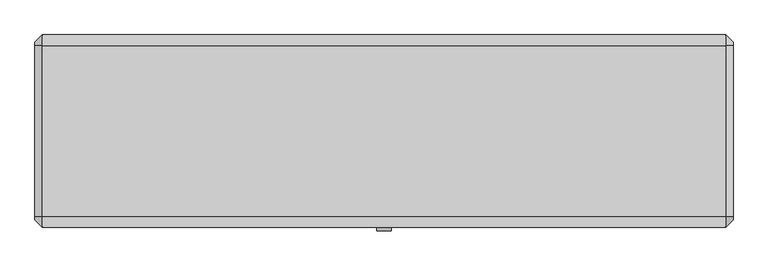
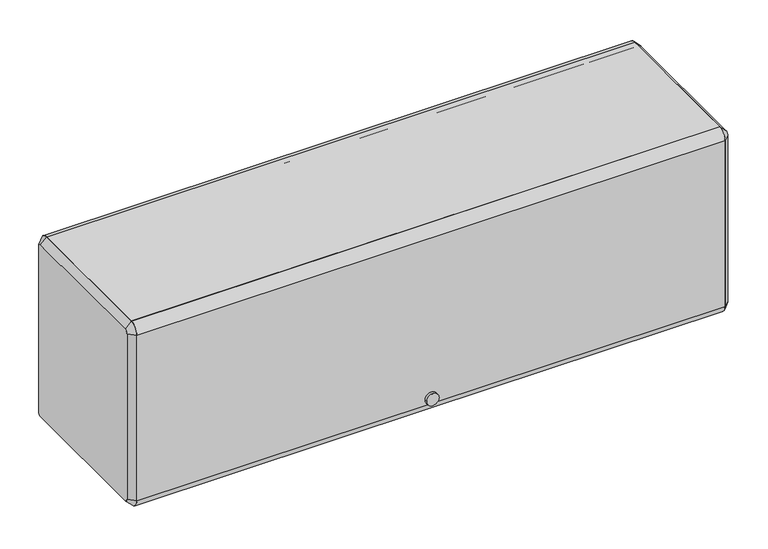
"""IFC4 building model written with IfcOpenShell, lengths in millimetres: furniture geometry."""

from ifc_helpers import new_model, si_unit, point, frame, frame_2d, origin, place, context, project, spatial, polyline, circle_curve, trimmed, segment, composite_curve, outline, extrude, source, transform, mapped, element, save
from ifc_brep_helpers import plane_surface, revolved_surface, advanced_brep


def furniture_8348d9a5(model_context):
    return source(origin(), model_context, "Body", "SolidModel", [
        extrude(outline(composite_curve([segment(polyline([(-136.525, 2177.2626), (-136.525, 2189.9626), (161.925, 2189.9626)]), True, "CONTINUOUS"), segment(trimmed(circle_curve(frame_2d((161.925, 2170.9126)), 19.05), [point((161.925, 2189.9626))], [point((180.975, 2170.9126))], False, "CARTESIAN"), True, "CONTINUOUS"), segment(polyline([(180.975, 2170.9126), (168.275, 2170.9126)]), True, "CONTINUOUS"), segment(trimmed(circle_curve(frame_2d((161.925, 2170.9126)), 6.35), [point((168.275, 2170.9126))], [point((161.925, 2177.2626))], True, "CARTESIAN"), True, "CONTINUOUS"), segment(polyline([(161.925, 2177.2626), (-136.525, 2177.2626)]), True, "CONTINUOUS")], self_intersect=False)), frame((-596.9, 0.0, 0.0), z_axis=(1.0, 0.0, 0.0), x_axis=(0.0, 1.0, 0.0)), (0.0, 0.0, 1.0), 1193.8),
        extrude(outline(composite_curve([segment(trimmed(circle_curve(frame_2d((-136.525, 2170.9126)), 19.05), [point((-155.575, 2170.9126))], [point((-136.525, 2189.9626))], False, "CARTESIAN"), True, "CONTINUOUS"), segment(polyline([(-136.525, 2189.9626), (-136.525, 2177.2626)]), True, "CONTINUOUS"), segment(trimmed(circle_curve(frame_2d((-136.525, 2170.9126)), 6.35), [point((-136.525, 2177.2626))], [point((-142.875, 2170.9126))], True, "CARTESIAN"), True, "CONTINUOUS"), segment(polyline([(-142.875, 2170.9126), (-142.875, 1815.3126)]), True, "CONTINUOUS"), segment(trimmed(circle_curve(frame_2d((-136.525, 1815.3126)), 6.35), [point((-142.875, 1815.3126))], [point((-136.525, 1808.9626))], True, "CARTESIAN"), True, "CONTINUOUS"), segment(polyline([(-136.525, 1808.9626), (-136.525, 1796.2626)]), True, "CONTINUOUS"), segment(trimmed(circle_curve(frame_2d((-136.525, 1815.3126)), 19.05), [point((-136.525, 1796.2626))], [point((-155.575, 1815.3126))], False, "CARTESIAN"), True, "CONTINUOUS"), segment(polyline([(-155.575, 1815.3126), (-155.575, 2170.9126)]), True, "CONTINUOUS")], self_intersect=False)), frame((-596.9, 0.0, 0.0), z_axis=(1.0, 0.0, 0.0), x_axis=(0.0, 1.0, 0.0)), (0.0, 0.0, 1.0), 1193.8),
        extrude(outline(composite_curve([segment(trimmed(circle_curve(frame_2d((1827.9744906, 0.0201199)), 12.7253951), [point((1827.9744906, 12.745515))], [point((1827.9744906, -12.7052752))], False, "CARTESIAN"), True, "CONTINUOUS"), segment(trimmed(circle_curve(frame_2d((1827.9744906, 0.0201199)), 12.7253951), [point((1827.9744906, -12.7052752))], [point((1827.9744906, 12.745515))], False, "CARTESIAN"), True, "CONTINUOUS")], self_intersect=False)), frame((0.0, -161.925, 0.0), z_axis=(0.0, 1.0, 0.0), x_axis=(0.0, 0.0, 1.0)), (0.0, 0.0, 1.0), 6.35),
        extrude(outline(polyline([(-136.525, 1834.3626), (161.925, 1834.3626), (161.925, 1872.4626), (174.625, 1872.4626), (174.625, 1869.2876), (165.1, 1869.2876), (165.1, 1831.1876), (-133.35, 1831.1876), (-133.35, 1812.1376), (-136.525, 1812.1376), (-136.525, 1834.3626)])), frame((-596.9, 0.0, 0.0), z_axis=(1.0, 0.0, 0.0), x_axis=(0.0, 1.0, 0.0)), (0.0, 0.0, 1.0), 1193.8),
        advanced_brep(
        [(609.6, 161.925, 2177.2626), (609.6, -136.525, 2177.2626), (609.6, -142.875, 2170.9126), (609.6, -142.875, 1815.3126), (609.6, -136.525, 1808.9626), (609.6, 161.925, 1808.9626), (609.6, 168.275, 1815.3126), (609.6, 168.275, 2170.9126), (596.9, 161.925, 2189.9626), (596.9, 180.975, 2170.9126), (596.9, 180.975, 1815.3126), (596.9, 161.925, 1796.2626), (596.9, -136.525, 1796.2626), (596.9, -155.575, 1815.3126), (596.9, -155.575, 2170.9126), (596.9, -136.525, 2189.9626)],
        [
            (0, 1),
            (1, 2, circle_curve(frame((609.6, -136.525, 2170.9126), z_axis=(1.0, 6.493472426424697e-12, -6.586731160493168e-12), x_axis=(6.586694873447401e-12, 0.0, 1.0)), 6.35)),
            (2, 3),
            (3, 4, circle_curve(frame((609.6, -136.525, 1815.3126), z_axis=(1.0, 3.37330163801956e-12, 3.367972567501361e-12), x_axis=(3.373343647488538e-12, -1.0, 0.0)), 6.35)),
            (4, 5),
            (5, 6, circle_curve(frame((609.6, 161.925, 1815.3126), z_axis=(1.0, 3.378630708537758e-12, -3.3892888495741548e-12), x_axis=(-3.3893585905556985e-12, 0.0, -1.0)), 6.35)),
            (6, 7),
            (7, 0, circle_curve(frame((609.6, 161.925, 2170.9126), z_axis=(1.0, 6.4828142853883e-12, 6.3948846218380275e-12), x_axis=(-6.482754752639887e-12, 1.0, 0.0)), 6.35)),
            (8, 9, circle_curve(frame((596.9, 161.925, 2170.9126), z_axis=(-1.0, -6.4828142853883e-12, -6.3948846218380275e-12), x_axis=(-6.482754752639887e-12, 1.0, 0.0)), 19.05)),
            (9, 10),
            (10, 11, circle_curve(frame((596.9, 161.925, 1815.3126), z_axis=(-1.0, -3.378630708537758e-12, 3.3892888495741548e-12), x_axis=(-3.3893585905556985e-12, 0.0, -1.0)), 19.05)),
            (11, 12),
            (12, 13, circle_curve(frame((596.9, -136.525, 1815.3126), z_axis=(-1.0, -3.37330163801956e-12, -3.367972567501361e-12), x_axis=(3.373343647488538e-12, -1.0, 0.0)), 19.05)),
            (13, 14),
            (14, 15, circle_curve(frame((596.9, -136.525, 2170.9126), z_axis=(-1.0, -6.493472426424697e-12, 6.586731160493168e-12), x_axis=(6.586694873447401e-12, 0.0, 1.0)), 19.05)),
            (15, 8),
            (15, 1),
            (0, 8),
            (14, 2),
            (13, 3),
            (12, 4),
            (11, 5),
            (10, 6),
            (9, 7),
        ],
        [
            plane_surface(frame((609.6, 12.7, 1993.1126), z_axis=(1.0, 0.0, 0.0), x_axis=(0.0, -1.0, 0.0))),
            plane_surface(frame((596.9, 12.7, 1993.1126), z_axis=(-1.0, 0.0, 0.0), x_axis=(0.0, -1.0, 0.0))),
            plane_surface(frame((596.9, 12.7, 2189.9626), z_axis=(0.7071067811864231, 0.0, 0.7071067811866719), x_axis=(0.0, -1.0, 0.0))),
            revolved_surface(polyline([(609.6000000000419, -136.525, 2177.262599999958), (596.9, -136.525, 2189.9626)]), (615.95, -136.525, 2170.9126), (-1.0, -6.493472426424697e-12, 6.586731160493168e-12)),
            plane_surface(frame((596.9, -155.575, 1993.1126), z_axis=(0.7071067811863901, -0.7071067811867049, 0.0), x_axis=(0.0, 0.0, -1.0))),
            revolved_surface(polyline([(609.6000000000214, -142.87499999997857, 1815.3126), (596.9, -155.575, 1815.3126)]), (615.95, -136.525, 1815.3126), (-1.0, -3.37330163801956e-12, -3.367972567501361e-12)),
            plane_surface(frame((596.9, 12.7, 1796.2626), z_axis=(0.7071067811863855, 0.0, -0.7071067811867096), x_axis=(0.0, 1.0, 0.0))),
            revolved_surface(polyline([(609.6, 161.925, 1808.9626), (596.8999999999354, 161.925, 1796.2625999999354)]), (615.95, 161.925, 1815.3126), (-1.0, -3.378630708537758e-12, 3.3892888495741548e-12)),
            plane_surface(frame((596.9, 180.975, 1993.1126), z_axis=(0.7071067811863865, 0.7071067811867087, 0.0), x_axis=(0.0, 0.0, 1.0))),
            revolved_surface(polyline([(609.6, 168.275, 2170.9126), (596.8999999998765, 180.9750000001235, 2170.9126)]), (615.95, 161.925, 2170.9126), (-1.0, -6.4828142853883e-12, -6.3948846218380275e-12)),
        ],
        [
            (0, [[1, 2, 3, 4, 5, 6, 7, 8]]),
            (1, [[9, 10, 11, 12, 13, 14, 15, 16]]),
            (2, [[-16, 17, -1, 18]]),
            (3, [[-15, 19, -2, -17]]),
            (4, [[-14, 20, -3, -19]]),
            (5, [[-13, 21, -4, -20]]),
            (6, [[-12, 22, -5, -21]]),
            (7, [[-11, 23, -6, -22]]),
            (8, [[-10, 24, -7, -23]]),
            (9, [[-9, -18, -8, -24]]),
        ],
    ),
        advanced_brep(
        [(-609.6, -136.525, 2177.2626), (-609.6, 161.925, 2177.2626), (-609.6, 168.275, 2170.9126), (-609.6, 168.275, 1815.3126), (-609.6, 161.925, 1808.9626), (-609.6, -136.525, 1808.9626), (-609.6, -142.875, 1815.3126), (-609.6, -142.875, 2170.9126), (-596.9, -136.525, 2189.9626), (-596.9, -155.575, 2170.9126), (-596.9, -155.575, 1815.3126), (-596.9, -136.525, 1796.2626), (-596.9, 161.925, 1796.2626), (-596.9, 180.975, 1815.3126), (-596.9, 180.975, 2170.9126), (-596.9, 161.925, 2189.9626)],
        [
            (0, 1),
            (1, 2, circle_curve(frame((-609.6, 161.925, 2170.9126), z_axis=(-1.0, 3.365308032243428e-12, 3.4106051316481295e-12), x_axis=(3.410554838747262e-12, 0.0, 1.0)), 6.35)),
            (2, 3),
            (3, 4, circle_curve(frame((-609.6, 161.925, 1815.3126), z_axis=(-1.0, 0.0, 0.0), x_axis=(0.0, 1.0, 0.0)), 6.35)),
            (4, 5),
            (5, 6, circle_curve(frame((-609.6, -136.525, 1815.3126), z_axis=(-1.0, 0.0, 0.0), x_axis=(0.0, 0.0, -1.0)), 6.35)),
            (6, 7),
            (7, 0, circle_curve(frame((-609.6, -136.525, 2170.9126), z_axis=(-1.0, 3.381295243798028e-12, -3.3040237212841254e-12), x_axis=(-3.3813511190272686e-12, -1.0, 0.0)), 6.35)),
            (8, 9, circle_curve(frame((-596.9, -136.525, 2170.9126), z_axis=(1.0, -3.381295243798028e-12, 3.3040237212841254e-12), x_axis=(-3.3813511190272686e-12, -1.0, 0.0)), 19.05)),
            (9, 10),
            (10, 11, circle_curve(frame((-596.9, -136.525, 1815.3126), z_axis=(1.0, 0.0, 0.0), x_axis=(0.0, 0.0, -1.0)), 19.05)),
            (11, 12),
            (12, 13, circle_curve(frame((-596.9, 161.925, 1815.3126), z_axis=(1.0, 0.0, 0.0), x_axis=(0.0, 1.0, 0.0)), 19.05)),
            (13, 14),
            (14, 15, circle_curve(frame((-596.9, 161.925, 2170.9126), z_axis=(1.0, -3.365308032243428e-12, -3.4106051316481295e-12), x_axis=(3.410554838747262e-12, 0.0, 1.0)), 19.05)),
            (15, 8),
            (15, 1),
            (0, 8),
            (14, 2),
            (13, 3),
            (12, 4),
            (11, 5),
            (10, 6),
            (9, 7),
        ],
        [
            plane_surface(frame((-609.6, 12.7, 1993.1126), z_axis=(-1.0, 0.0, 0.0), x_axis=(0.0, -1.0, 0.0))),
            plane_surface(frame((-596.9, 12.7, 1993.1126), z_axis=(1.0, 0.0, 0.0), x_axis=(0.0, -1.0, 0.0))),
            plane_surface(frame((-596.9, 12.7, 2189.9626), z_axis=(-0.7071067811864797, 0.0, 0.7071067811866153), x_axis=(0.0, 1.0, 0.0))),
            revolved_surface(polyline([(-609.6, 161.925, 2177.2626), (-596.8999999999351, 161.925, 2189.962600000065)]), (-615.95, 161.925, 2170.9126), (1.0, -3.365308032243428e-12, -3.4106051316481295e-12)),
            plane_surface(frame((-596.9, 180.975, 1993.1126), z_axis=(-0.7071067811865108, 0.7071067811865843, 0.0), x_axis=(0.0, 0.0, -1.0))),
            revolved_surface(polyline([(-609.6, 168.275, 1815.3126), (-596.9, 180.975, 1815.3126)]), (-615.95, 161.925, 1815.3126), (1.0, 0.0, 0.0)),
            plane_surface(frame((-596.9, 12.7, 1796.2626), z_axis=(-0.7071067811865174, 0.0, -0.7071067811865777), x_axis=(0.0, -1.0, 0.0))),
            revolved_surface(polyline([(-609.6, -136.525, 1808.9626), (-596.9, -136.525, 1796.2626)]), (-615.95, -136.525, 1815.3126), (1.0, 0.0, 0.0)),
            plane_surface(frame((-596.9, -155.575, 1993.1126), z_axis=(-0.7071067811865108, -0.7071067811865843, 0.0), x_axis=(0.0, 0.0, 1.0))),
            revolved_surface(polyline([(-609.6000000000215, -142.87499999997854, 2170.9126), (-596.9, -155.575, 2170.9126)]), (-615.95, -136.525, 2170.9126), (1.0, -3.381295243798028e-12, 3.3040237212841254e-12)),
        ],
        [
            (0, [[1, 2, 3, 4, 5, 6, 7, 8]]),
            (1, [[9, 10, 11, 12, 13, 14, 15, 16]]),
            (2, [[-16, 17, -1, 18]]),
            (3, [[-15, 19, -2, -17]]),
            (4, [[-14, 20, -3, -19]]),
            (5, [[-13, 21, -4, -20]]),
            (6, [[-12, 22, -5, -21]]),
            (7, [[-11, 23, -6, -22]]),
            (8, [[-10, 24, -7, -23]]),
            (9, [[-9, -18, -8, -24]]),
        ],
    ),
    ])


if __name__ == "__main__":
    model = new_model("IFC4")
    model_context = context("Model", 3, world=origin())
    ifc_project = project(units=[si_unit("LENGTHUNIT", "METRE", prefix="MILLI")], contexts=[model_context])
    site = spatial("IfcSite", under=ifc_project)
    building = spatial("IfcBuilding", under=site)
    placement = place(None, origin())
    furniture_shape = furniture_8348d9a5(model_context)
    element("IfcFurniture", 1, ObjectType="HermanMiller_ActionOffice_A3352_B-StyleFlipperDoorUnit : 15 1/2\"H x 13\"D x 48\"W", at=placement, inside=building, context=model_context, shape_type="MappedRepresentation", body=[
        mapped(furniture_shape, transform((0.0, 0.0, 0.0), x_axis=(1.0, 0.0, 0.0), y_axis=(0.0, 1.0, 0.0), z_axis=(0.0, 0.0, 1.0))),
    ])
    save(model, "model.ifc")
